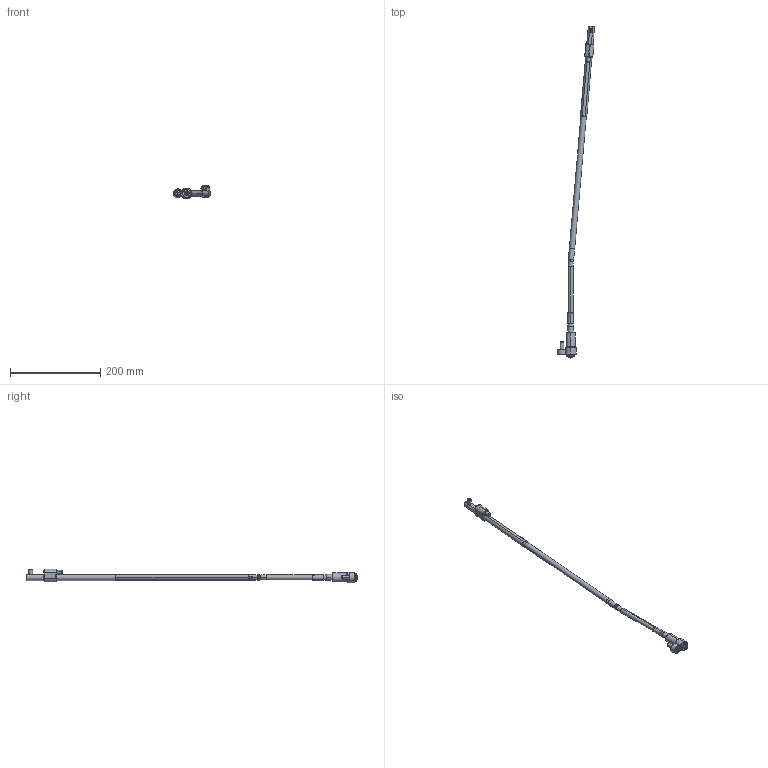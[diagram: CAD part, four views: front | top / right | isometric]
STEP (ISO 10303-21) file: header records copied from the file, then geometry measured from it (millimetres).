
FILE_DESCRIPTION (( 'STEP AP214' ), '1' );
FILE_NAME ('WL120100-INJ 5°.STEP', '2021-03-19T15:36:13', ( '' ), ( '' ), 'SwSTEP 2.0', 'SolidWorks 2019', '' );
FILE_SCHEMA (( 'AUTOMOTIVE_DESIGN' ));
Length unit declared in the file: millimetre
Products named in the file (17): 9DR2808-TOR; WL120100-B; WL120100-D; Web-WL12-A1; Web-WL12-F01; 3IMAN5X3-150_con sellador; WL120100-E; Web-WL12-A2; 8WL12EJEP; Web-WL12-A3; Web-WL12-XX_OFF-WL120100-5; WL120100-INJ 5°; 1DIN912645_DIN 912 M6 x 45 --- 45C; WL120100-B1; 1DIN912820_DIN 912 M8 x 20 --- 20C; Web-WL12-A8; Web-WL12-F00.SLDPRT
Assembly tree (16 placements, depth 3):
  WL120100-INJ 5°
    Web-WL12-A8
    Web-WL12-XX_OFF-WL120100-5
    Web-WL12-A3
    Web-WL12-A2
    Web-WL12-A1
    Web-WL12-F00.SLDPRT
      Web-WL12-F01
      1DIN912820_DIN 912 M8 x 20 --- 20C
      1DIN912645_DIN 912 M6 x 45 --- 45C
    WL120100-D
    8WL12EJEP
    WL120100-E
    9DR2808-TOR
    WL120100-B
      WL120100-B1
      3IMAN5X3-150_con sellador
Bounding box: 82.46 x 736.58 x 29.9 mm (x, y, z)
Volume: 113342.3 mm3; surface area: 49842.5 mm2
Topology: 15 solids, 15 shells, 432 faces, 906 edges, 525 vertices
Faces by surface type: plane 139, cylinder 123, cone 120, torus 50
Entity records: 13661 total; most frequent: DIRECTION 2240, CARTESIAN_POINT 2104, ORIENTED_EDGE 1788, AXIS2_PLACEMENT_3D 929, EDGE_CURVE 894, VERTEX_POINT 525, EDGE_LOOP 477, CIRCLE 476
